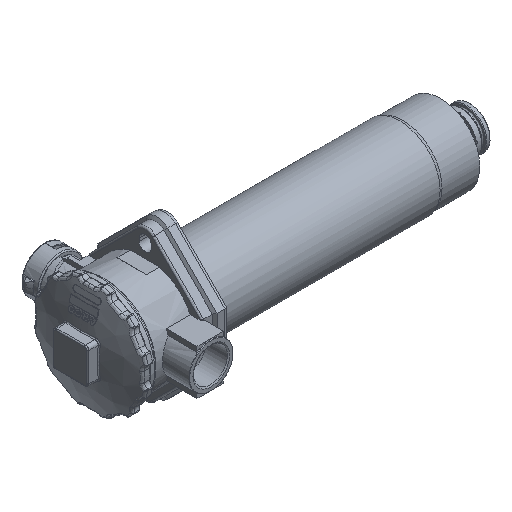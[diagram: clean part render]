
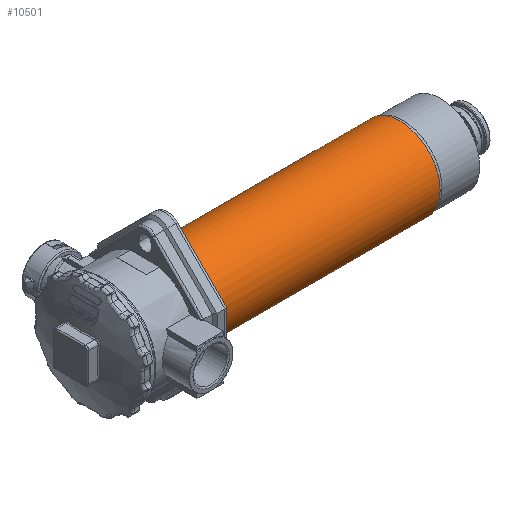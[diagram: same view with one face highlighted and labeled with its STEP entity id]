
A CAD part, isometric view. The second image highlights one B-rep face of the part: STEP entity #10501.
In plain terms, the highlighted free-form (B-spline) face has degree [2, 1] with [7, 2] control points.
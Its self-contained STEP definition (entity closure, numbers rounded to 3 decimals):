
#10422=CARTESIAN_POINT('V1139',(275.6,
   -36.5,0.));
#10423=VERTEX_POINT('V1139',#10422);
#10429=CARTESIAN_POINT('E1859',(275.6,
   -36.5,0.));
#10430=CARTESIAN_POINT('E1859',(275.6,
   -36.5,-63.22));
#10431=CARTESIAN_POINT('E1859',(275.6,
   18.25,-31.61));
#10432=CARTESIAN_POINT('E1859',(275.6,73.0,
   0.));
#10433=CARTESIAN_POINT('E1859',(275.6,
   18.25,31.61));
#10434=CARTESIAN_POINT('E1859',(275.6,
   -36.5,63.22));
#10435=CARTESIAN_POINT('E1859',(275.6,
   -36.5,0.));
#10443=(BOUNDED_CURVE()B_SPLINE_CURVE(2,(#10429,#10430,#10431,
   #10432,#10433,#10434,#10435),.CIRCULAR_ARC.,.T.,.U.)
   B_SPLINE_CURVE_WITH_KNOTS((3,2,2,3),(0.0,42.653,
   85.305,127.958),.UNSPECIFIED.)CURVE()
   GEOMETRIC_REPRESENTATION_ITEM()RATIONAL_B_SPLINE_CURVE((1.0,
   0.5,1.0,0.5,1.0,0.5,1.0)
   )REPRESENTATION_ITEM('E1859'));
#10444=EDGE_CURVE('E1859',#10423,#10423,#10443,.T.);
#10451=CARTESIAN_POINT('F720',(46.6,
   -36.5,0.));
#10452=CARTESIAN_POINT('F720',(46.6,
   -36.5,-63.22));
#10453=CARTESIAN_POINT('F720',(46.6,18.25,
   -31.61));
#10454=CARTESIAN_POINT('F720',(46.6,73.0,
   0.));
#10455=CARTESIAN_POINT('F720',(46.6,18.25,
   31.61));
#10456=CARTESIAN_POINT('F720',(46.6,
   -36.5,63.22));
#10457=CARTESIAN_POINT('F720',(46.6,
   -36.5,0.));
#10458=CARTESIAN_POINT('F720',(275.6,
   -36.5,0.));
#10459=CARTESIAN_POINT('F720',(275.6,
   -36.5,-63.22));
#10460=CARTESIAN_POINT('F720',(275.6,
   18.25,-31.61));
#10461=CARTESIAN_POINT('F720',(275.6,73.0,
   0.));
#10462=CARTESIAN_POINT('F720',(275.6,
   18.25,31.61));
#10463=CARTESIAN_POINT('F720',(275.6,
   -36.5,63.22));
#10464=CARTESIAN_POINT('F720',(275.6,
   -36.5,0.));
#10472=(BOUNDED_SURFACE()B_SPLINE_SURFACE(2,1,((#10451,#10458),(
   #10452,#10459),(#10453,#10460),(#10454,#10461),(#10455,
   #10462),(#10456,#10463),(#10457,#10464)),.CYLINDRICAL_SURF.,
   .T.,.F.,.U.)B_SPLINE_SURFACE_WITH_KNOTS((3,2,2,3),(2,2),(0.0,
   0.552,1.104,1.656),(0.0,1.0),
   .UNSPECIFIED.)GEOMETRIC_REPRESENTATION_ITEM()
   RATIONAL_B_SPLINE_SURFACE(((1.0,1.0),(0.5,
   0.5),(1.0,1.0),(0.5,
   0.5),(1.0,1.0),(0.5,
   0.5),(1.0,1.0)))REPRESENTATION_ITEM('F720')
   SURFACE());
#10473=CARTESIAN_POINT('V1145',(69.0,-36.5,
   0.));
#10474=VERTEX_POINT('V1145',#10473);
#10475=CARTESIAN_POINT('E1879',(69.0,-36.5,
   0.));
#10476=CARTESIAN_POINT('E1879',(69.0,-36.5,
   63.22));
#10477=CARTESIAN_POINT('E1879',(69.0,18.25,
   31.61));
#10478=CARTESIAN_POINT('E1879',(69.0,73.0,0.));
#10479=CARTESIAN_POINT('E1879',(69.0,18.25,
   -31.61));
#10480=CARTESIAN_POINT('E1879',(69.0,-36.5,
   -63.22));
#10481=CARTESIAN_POINT('E1879',(69.0,-36.5,
   0.));
#10489=(BOUNDED_CURVE()B_SPLINE_CURVE(2,(#10475,#10476,#10477,
   #10478,#10479,#10480,#10481),.CIRCULAR_ARC.,.T.,.U.)
   B_SPLINE_CURVE_WITH_KNOTS((3,2,2,3),(0.0,0.333,
   0.667,1.0),.UNSPECIFIED.)CURVE()
   GEOMETRIC_REPRESENTATION_ITEM()RATIONAL_B_SPLINE_CURVE((1.0,
   0.5,1.0,0.5,1.0,0.5,1.0)
   )REPRESENTATION_ITEM('E1879'));
#10490=EDGE_CURVE('E1879',#10474,#10474,#10489,.T.);
#10491=ORIENTED_EDGE('E1879',*,*,#10490,.F.);
#10492=CARTESIAN_POINT('E1880',(275.6,
   -36.5,0.0));
#10493=CARTESIAN_POINT('E1880',(69.0,-36.5,0.0));
#10494=B_SPLINE_CURVE_WITH_KNOTS('E1880',1,(#10492,#10493),
   .POLYLINE_FORM.,.F.,.U.,(2,2),(0.0,0.902),
   .UNSPECIFIED.);
#10495=EDGE_CURVE('E1880',#10423,#10474,#10494,.T.);
#10496=ORIENTED_EDGE('E1880',*,*,#10495,.F.);
#10497=ORIENTED_EDGE('E1859',*,*,#10444,.F.);
#10498=ORIENTED_EDGE('E1880',*,*,#10495,.T.);
#10499=EDGE_LOOP('F720',(#10491,#10496,#10497,#10498));
#10500=FACE_OUTER_BOUND('F720',#10499,.T.);
#10501=ADVANCED_FACE('F720',(#10500),#10472,.T.);
